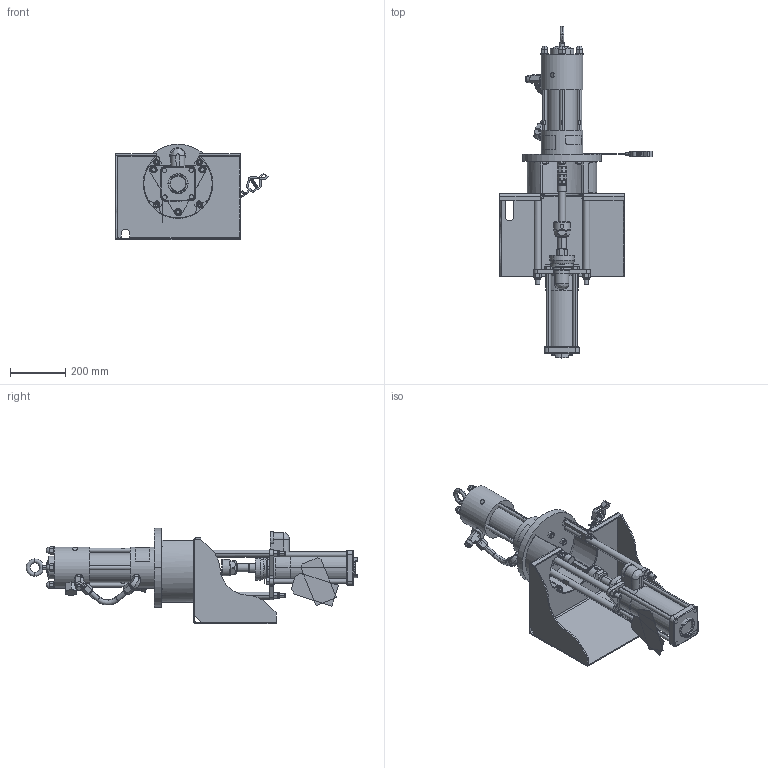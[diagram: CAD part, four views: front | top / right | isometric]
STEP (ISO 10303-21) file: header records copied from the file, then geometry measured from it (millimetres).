
FILE_DESCRIPTION((''),'2;1');
FILE_NAME('24W891-EN-H_PRT','2022-06-21T14:28:57',('qufmd1'),(''),'CREO PARAMETRIC BY PTC INC, 2021072','CREO PARAMETRIC BY PTC INC, 2021072','');
FILE_SCHEMA(('CONFIG_CONTROL_DESIGN'));
Length unit declared in the file: inch
Products named in the file (1): 24W891-EN-H_PRT
Bounding box: 552.08 x 1202.41 x 346.07 mm (x, y, z)
Surface area: 1947614.4 mm2 (no closed solid volume)
Topology: 0 solids, 171 shells, 1087 faces, 3159 edges, 2137 vertices
Faces by surface type: plane 477, cone 300, cylinder 249, torus 43, bspline 10, revolution 8
Entity records: 41086 total; most frequent: CARTESIAN_POINT 14276, DIRECTION 5447, ORIENTED_EDGE 5060, EDGE_CURVE 3151, VERTEX_POINT 2137, AXIS2_PLACEMENT_3D 2075, VECTOR 1289, LINE 1289
